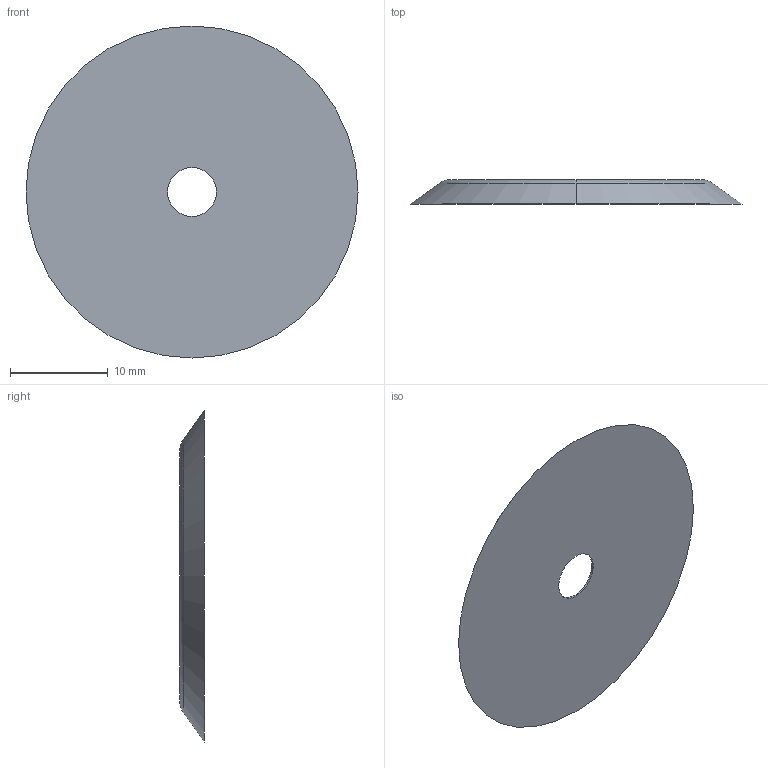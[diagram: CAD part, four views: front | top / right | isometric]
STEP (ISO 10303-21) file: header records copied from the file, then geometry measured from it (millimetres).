
FILE_DESCRIPTION (( 'STEP AP203' ), '1' );
FILE_NAME ('K-34.STEP', '2013-07-15T06:51:12', ( 'SDS' ), ( 'SDS' ), 'SwSTEP 2.0', 'SolidWorks 2002296', '' );
FILE_SCHEMA (( 'CONFIG_CONTROL_DESIGN' ));
Length unit declared in the file: millimetre
Products named in the file (1): K-34
Bounding box: 34 x 2.5 x 34 mm (x, y, z)
Volume: 1305.1 mm3; surface area: 1975.7 mm2
Topology: 1 solids, 1 shells, 11 faces, 22 edges, 14 vertices
Faces by surface type: cylinder 4, plane 3, torus 2, cone 2
Entity records: 377 total; most frequent: DIRECTION 62, CARTESIAN_POINT 48, ORIENTED_EDGE 44, AXIS2_PLACEMENT_3D 28, EDGE_CURVE 22, CIRCLE 16, EDGE_LOOP 14, VERTEX_POINT 14
